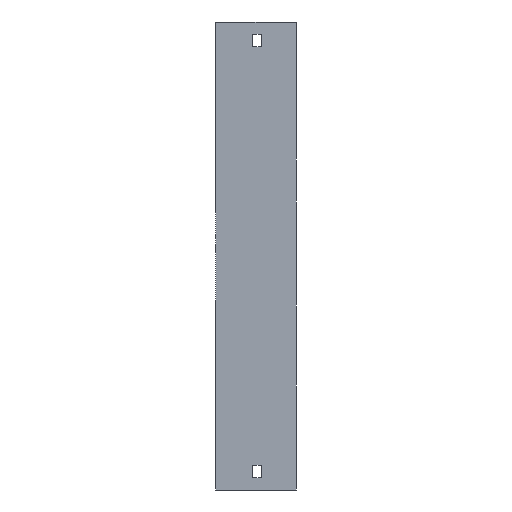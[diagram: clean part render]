
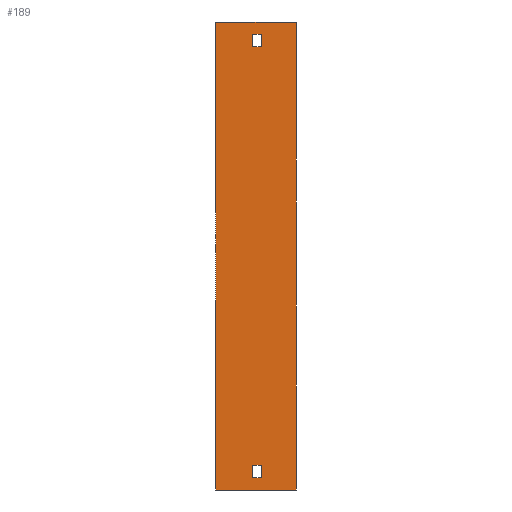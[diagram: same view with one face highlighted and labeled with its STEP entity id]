
A CAD part, left-side view. The second image highlights one B-rep face of the part: STEP entity #189.
In plain terms, the highlighted planar face has unit normal (-1, 0, 0).
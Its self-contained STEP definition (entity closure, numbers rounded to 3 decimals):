
#9 = VECTOR ( 'NONE', #1005, 1000. ) ;
#11 = ORIENTED_EDGE ( 'NONE', *, *, #1607, .F. ) ;
#31 = LINE ( 'NONE', #1359, #1116 ) ;
#37 = ORIENTED_EDGE ( 'NONE', *, *, #122, .F. ) ;
#70 = ORIENTED_EDGE ( 'NONE', *, *, #1255, .F. ) ;
#82 = CARTESIAN_POINT ( 'NONE',  ( -179., 0., 50. ) ) ;
#96 = VECTOR ( 'NONE', #1362, 1000. ) ;
#122 = EDGE_CURVE ( 'NONE', #1751, #1406, #1480, .T. ) ;
#148 = CARTESIAN_POINT ( 'NONE',  ( -179., 35.5, -309. ) ) ;
#152 = EDGE_CURVE ( 'NONE', #902, #655, #1073, .T. ) ;
#164 = ORIENTED_EDGE ( 'NONE', *, *, #858, .F. ) ;
#178 = LINE ( 'NONE', #799, #427 ) ;
#188 = ORIENTED_EDGE ( 'NONE', *, *, #650, .T. ) ;
#189 = ADVANCED_FACE ( 'NONE', ( #1686, #486, #1666 ), #1518, .F. ) ;
#201 = VECTOR ( 'NONE', #955, 1000. ) ;
#218 = ORIENTED_EDGE ( 'NONE', *, *, #1333, .T. ) ;
#249 = CARTESIAN_POINT ( 'NONE',  ( -179., 35.5, 30. ) ) ;
#269 = DIRECTION ( 'NONE',  ( 0., 0., 1. ) ) ;
#338 = DIRECTION ( 'NONE',  ( 0., 0., 1. ) ) ;
#349 = CARTESIAN_POINT ( 'NONE',  ( -179., 35.5, 40. ) ) ;
#368 = VERTEX_POINT ( 'NONE', #1671 ) ;
#406 = CARTESIAN_POINT ( 'NONE',  ( -179., 35.5, -309. ) ) ;
#427 = VECTOR ( 'NONE', #961, 1000. ) ;
#474 = DIRECTION ( 'NONE',  ( 0., -1., 0. ) ) ;
#486 = FACE_BOUND ( 'NONE', #937, .T. ) ;
#498 = VERTEX_POINT ( 'NONE', #999 ) ;
#514 = ORIENTED_EDGE ( 'NONE', *, *, #1810, .T. ) ;
#545 = DIRECTION ( 'NONE',  ( 1., 0., 0. ) ) ;
#558 = EDGE_LOOP ( 'NONE', ( #1253, #1811, #37, #70 ) ) ;
#569 = EDGE_LOOP ( 'NONE', ( #514, #164, #11, #883 ) ) ;
#585 = LINE ( 'NONE', #1181, #869 ) ;
#606 = VERTEX_POINT ( 'NONE', #1347 ) ;
#650 = EDGE_CURVE ( 'NONE', #655, #840, #1394, .T. ) ;
#655 = VERTEX_POINT ( 'NONE', #801 ) ;
#656 = CARTESIAN_POINT ( 'NONE',  ( -179., 35.5, 40. ) ) ;
#684 = CARTESIAN_POINT ( 'NONE',  ( -179., 28.5, 40. ) ) ;
#708 = VECTOR ( 'NONE', #881, 1000. ) ;
#711 = EDGE_CURVE ( 'NONE', #1406, #606, #1343, .T. ) ;
#717 = LINE ( 'NONE', #349, #201 ) ;
#720 = LINE ( 'NONE', #871, #708 ) ;
#756 = DIRECTION ( 'NONE',  ( 0., 0., 1. ) ) ;
#778 = CARTESIAN_POINT ( 'NONE',  ( -179., 28.5, -309. ) ) ;
#790 = CARTESIAN_POINT ( 'NONE',  ( -179., 65.5, -329. ) ) ;
#799 = CARTESIAN_POINT ( 'NONE',  ( -179., 35.5, 30. ) ) ;
#801 = CARTESIAN_POINT ( 'NONE',  ( -179., 28.5, 40. ) ) ;
#840 = VERTEX_POINT ( 'NONE', #1896 ) ;
#858 = EDGE_CURVE ( 'NONE', #498, #1529, #1881, .T. ) ;
#865 = ORIENTED_EDGE ( 'NONE', *, *, #943, .T. ) ;
#869 = VECTOR ( 'NONE', #756, 1000. ) ;
#871 = CARTESIAN_POINT ( 'NONE',  ( -179., 35.5, -319. ) ) ;
#881 = DIRECTION ( 'NONE',  ( 0., -1., 0. ) ) ;
#883 = ORIENTED_EDGE ( 'NONE', *, *, #1281, .T. ) ;
#902 = VERTEX_POINT ( 'NONE', #1437 ) ;
#930 = LINE ( 'NONE', #1525, #1626 ) ;
#937 = EDGE_LOOP ( 'NONE', ( #865, #1038, #188, #218 ) ) ;
#943 = EDGE_CURVE ( 'NONE', #1538, #902, #717, .T. ) ;
#955 = DIRECTION ( 'NONE',  ( 0., 0., 1. ) ) ;
#961 = DIRECTION ( 'NONE',  ( 0., 1., 0. ) ) ;
#974 = CARTESIAN_POINT ( 'NONE',  ( -179., 0., -329. ) ) ;
#999 = CARTESIAN_POINT ( 'NONE',  ( -179., 65.5, 50. ) ) ;
#1005 = DIRECTION ( 'NONE',  ( 0., 0., -1. ) ) ;
#1015 = VECTOR ( 'NONE', #1862, 1000. ) ;
#1038 = ORIENTED_EDGE ( 'NONE', *, *, #152, .T. ) ;
#1072 = CARTESIAN_POINT ( 'NONE',  ( -179., 65.5, -329. ) ) ;
#1073 = LINE ( 'NONE', #656, #1499 ) ;
#1116 = VECTOR ( 'NONE', #338, 1000. ) ;
#1144 = VECTOR ( 'NONE', #269, 1000. ) ;
#1176 = DIRECTION ( 'NONE',  ( 0., 0., -1. ) ) ;
#1181 = CARTESIAN_POINT ( 'NONE',  ( -179., 65.5, -329. ) ) ;
#1253 = ORIENTED_EDGE ( 'NONE', *, *, #1647, .F. ) ;
#1255 = EDGE_CURVE ( 'NONE', #368, #1751, #1604, .T. ) ;
#1281 = EDGE_CURVE ( 'NONE', #1832, #1883, #930, .T. ) ;
#1327 = CARTESIAN_POINT ( 'NONE',  ( -179., 28.5, -319. ) ) ;
#1333 = EDGE_CURVE ( 'NONE', #840, #1538, #178, .T. ) ;
#1343 = LINE ( 'NONE', #1491, #1854 ) ;
#1347 = CARTESIAN_POINT ( 'NONE',  ( -179., 35.5, -319. ) ) ;
#1359 = CARTESIAN_POINT ( 'NONE',  ( -179., 0., -329. ) ) ;
#1362 = DIRECTION ( 'NONE',  ( 0., 1., 0. ) ) ;
#1394 = LINE ( 'NONE', #684, #9 ) ;
#1406 = VERTEX_POINT ( 'NONE', #406 ) ;
#1437 = CARTESIAN_POINT ( 'NONE',  ( -179., 35.5, 40. ) ) ;
#1480 = LINE ( 'NONE', #148, #96 ) ;
#1491 = CARTESIAN_POINT ( 'NONE',  ( -179., 35.5, -319. ) ) ;
#1499 = VECTOR ( 'NONE', #474, 1000. ) ;
#1516 = DIRECTION ( 'NONE',  ( 0., -1., 0. ) ) ;
#1518 = PLANE ( 'NONE',  #1923 ) ;
#1525 = CARTESIAN_POINT ( 'NONE',  ( -179., 65.5, -329. ) ) ;
#1529 = VERTEX_POINT ( 'NONE', #82 ) ;
#1538 = VERTEX_POINT ( 'NONE', #249 ) ;
#1604 = LINE ( 'NONE', #1327, #1144 ) ;
#1607 = EDGE_CURVE ( 'NONE', #1832, #498, #585, .T. ) ;
#1626 = VECTOR ( 'NONE', #1516, 1000. ) ;
#1647 = EDGE_CURVE ( 'NONE', #606, #368, #720, .T. ) ;
#1666 = FACE_BOUND ( 'NONE', #558, .T. ) ;
#1671 = CARTESIAN_POINT ( 'NONE',  ( -179., 28.5, -319. ) ) ;
#1686 = FACE_OUTER_BOUND ( 'NONE', #569, .T. ) ;
#1702 = DIRECTION ( 'NONE',  ( 0., 0., -1. ) ) ;
#1751 = VERTEX_POINT ( 'NONE', #778 ) ;
#1810 = EDGE_CURVE ( 'NONE', #1883, #1529, #31, .T. ) ;
#1811 = ORIENTED_EDGE ( 'NONE', *, *, #711, .F. ) ;
#1832 = VERTEX_POINT ( 'NONE', #1072 ) ;
#1854 = VECTOR ( 'NONE', #1176, 1000. ) ;
#1862 = DIRECTION ( 'NONE',  ( 0., -1., 0. ) ) ;
#1881 = LINE ( 'NONE', #1906, #1015 ) ;
#1883 = VERTEX_POINT ( 'NONE', #974 ) ;
#1896 = CARTESIAN_POINT ( 'NONE',  ( -179., 28.5, 30. ) ) ;
#1906 = CARTESIAN_POINT ( 'NONE',  ( -179., 65.5, 50. ) ) ;
#1923 = AXIS2_PLACEMENT_3D ( 'NONE', #790, #545, #1702 ) ;
